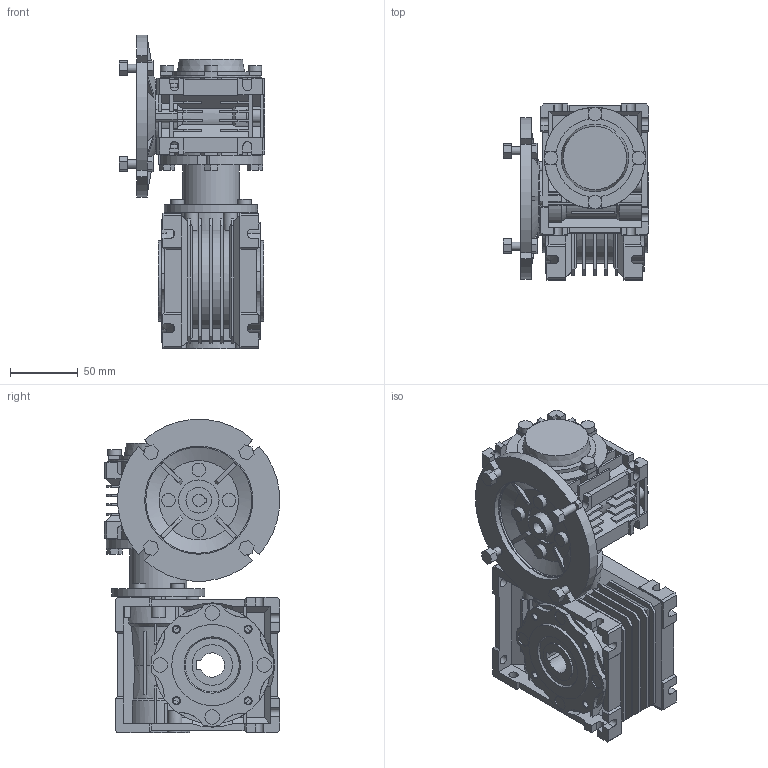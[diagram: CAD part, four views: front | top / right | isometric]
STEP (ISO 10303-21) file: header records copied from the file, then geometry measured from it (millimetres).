
FILE_DESCRIPTION(/* description */ ('STEP AP242','CAx-IF Rec.Pracs.---Representation and Presentation of Product Manufacturing Information (PMI)---4.0---2014-10-13','CAx-IF Rec.Pracs.---3D Tessellated Geometry---0.4---2014-09-14','2;1'),/* implementation_level */ '2;1');
FILE_NAME(/* name */ 'NMRV-NMRV030-040100__10x10_41118NO11NO00NO---_--------',/* time_stamp */ '2025-10-09T12:00:04+02:00',/* author */ ('License CC BY-ND 4.0'),/* organization */ ('CADENAS'),/* preprocessor_version */ 'ST-DEVELOPER v19.3',/* originating_system */ 'PARTsolutions',/* authorisation */ ' ');
FILE_SCHEMA (('AP242_MANAGED_MODEL_BASED_3D_ENGINEERING_MIM_LF { 1 0 10303 442 1 1 4 }'));
Length unit declared in the file: millimetre
Products named in the file (13): NMRV-NMRV030-040100 (10x10)41118NO11NO00NO---(--------); 030-040100 (10x10)4114118No11No00NO---(--------)-d; 030-04050 (5x10)41118No11No00NO---d1; 030-04050 (5x10)41118No11No00T0561-d1; Gear unit 40; 040-18 (78)alc-n; VB 040-11 (11); Gear unit 30; 030-14 (63)alc-n; FT 030-040; Hollow shaft 30; VB 030-09 (9); 30-56 B5
Assembly tree (13 placements, depth 2):
  NMRV-NMRV030-040100 (10x10)41118NO11NO00NO---(--------)
    030-040100 (10x10)4114118No11No00NO---(--------)-d
    030-04050 (5x10)41118No11No00NO---d1
    030-04050 (5x10)41118No11No00T0561-d1  x2
    Gear unit 40
    040-18 (78)alc-n
    VB 040-11 (11)
    Gear unit 30
    030-14 (63)alc-n
    FT 030-040
    Hollow shaft 30
    VB 030-09 (9)
    30-56 B5
Bounding box: 108 x 130 x 231.8 mm (x, y, z)
Volume: 1135214.3 mm3; surface area: 296378.5 mm2
Topology: 9 solids, 16 shells, 1625 faces, 4373 edges, 2849 vertices
Faces by surface type: plane 1209, cylinder 330, cone 84, torus 2
Full cylindrical faces by diameter (mm): 3.545 x3, 4.65 x3, 4.917 x16, 5.55 x3, 6 x8, 7 x6, 10 x12, 10.8 x4, 16 x1, 19 x2, 23 x2, 24.8 x2, 28 x1, 30 x4, 36 x1, 37 x1, 38 x1, 40 x1, 42 x1, 47 x1, 55 x3, 60 x2, 69 x1, 75 x2, 78.5 x1, 80 x1
Entity records: 61263 total; most frequent: CARTESIAN_POINT 9335, ORIENTED_EDGE 8436, DIRECTION 8258, EDGE_CURVE 4218, LINE 3064, VECTOR 3064, VERTEX_POINT 2824, AXIS2_PLACEMENT_3D 2597
